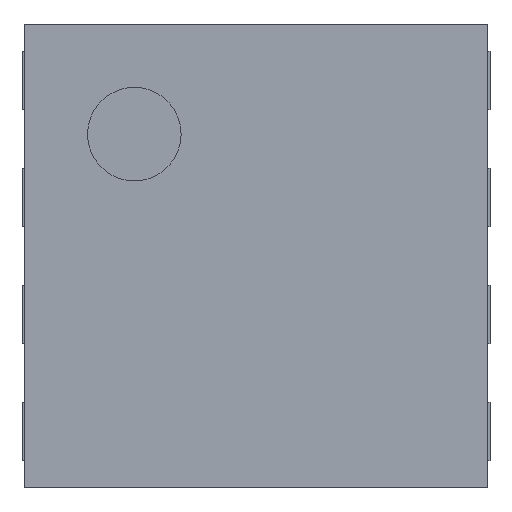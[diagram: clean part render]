
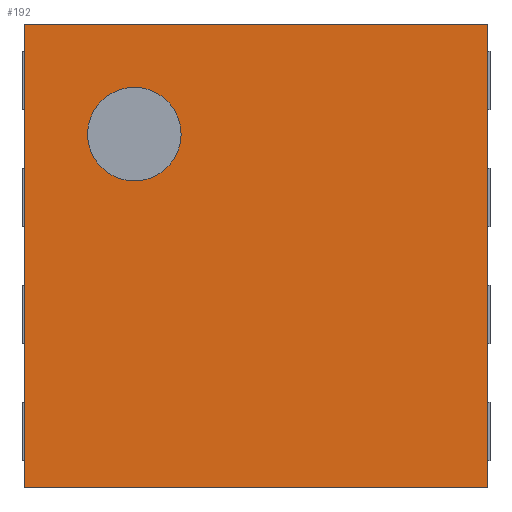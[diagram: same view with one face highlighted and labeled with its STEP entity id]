
A CAD part, top view. The second image highlights one B-rep face of the part: STEP entity #192.
In plain terms, the highlighted planar face has unit normal (0, 0, 1).
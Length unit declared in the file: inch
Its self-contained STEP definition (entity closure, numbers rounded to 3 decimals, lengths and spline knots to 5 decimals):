
#61 = CARTESIAN_POINT ( 'NONE',  ( -0.03898, 0.03898, 0.03622 ) ) ;
#65 = CARTESIAN_POINT ( 'NONE',  ( -0.02047, 0.02047, 0.03622 ) ) ;
#78 = EDGE_LOOP ( 'NONE', ( #98, #1694 ) ) ;
#93 = EDGE_CURVE ( 'NONE', #1552, #219, #760, .T. ) ;
#96 = AXIS2_PLACEMENT_3D ( 'NONE', #65, #859, #1019 ) ;
#98 = ORIENTED_EDGE ( 'NONE', *, *, #1045, .T. ) ;
#154 = DIRECTION ( 'NONE',  ( 1., 0., 0. ) ) ;
#192 = ADVANCED_FACE ( 'NONE', ( #1102, #1441 ), #1740, .T. ) ;
#197 = CARTESIAN_POINT ( 'NONE',  ( -0.03898, 0.03898, 0.03622 ) ) ;
#219 = VERTEX_POINT ( 'NONE', #1306 ) ;
#312 = EDGE_CURVE ( 'NONE', #739, #490, #1936, .T. ) ;
#330 = CARTESIAN_POINT ( 'NONE',  ( -0.03898, -0.03898, 0.03622 ) ) ;
#420 = CARTESIAN_POINT ( 'NONE',  ( -0.03898, 0.03898, 0.03622 ) ) ;
#479 = ORIENTED_EDGE ( 'NONE', *, *, #1560, .F. ) ;
#490 = VERTEX_POINT ( 'NONE', #1119 ) ;
#520 = VERTEX_POINT ( 'NONE', #330 ) ;
#606 = VECTOR ( 'NONE', #1658, 39.37008 ) ;
#621 = VECTOR ( 'NONE', #1766, 39.37008 ) ;
#643 = DIRECTION ( 'NONE',  ( 0., 0., 1. ) ) ;
#668 = AXIS2_PLACEMENT_3D ( 'NONE', #949, #643, #1264 ) ;
#671 = VECTOR ( 'NONE', #685, 39.37008 ) ;
#685 = DIRECTION ( 'NONE',  ( 0., -1., 0. ) ) ;
#732 = AXIS2_PLACEMENT_3D ( 'NONE', #1071, #1829, #898 ) ;
#739 = VERTEX_POINT ( 'NONE', #420 ) ;
#757 = CARTESIAN_POINT ( 'NONE',  ( -0.02047, 0.02835, 0.03622 ) ) ;
#760 = CIRCLE ( 'NONE', #732, 0.00787 ) ;
#788 = CARTESIAN_POINT ( 'NONE',  ( -0.03898, -0.03898, 0.03622 ) ) ;
#859 = DIRECTION ( 'NONE',  ( 0., 0., -1. ) ) ;
#898 = DIRECTION ( 'NONE',  ( 0., -1., 0. ) ) ;
#909 = LINE ( 'NONE', #1388, #606 ) ;
#937 = VECTOR ( 'NONE', #154, 39.37008 ) ;
#946 = ORIENTED_EDGE ( 'NONE', *, *, #1788, .T. ) ;
#949 = CARTESIAN_POINT ( 'NONE',  ( -0.03898, 0.03898, 0.03622 ) ) ;
#999 = LINE ( 'NONE', #197, #671 ) ;
#1019 = DIRECTION ( 'NONE',  ( 0., -1., 0. ) ) ;
#1045 = EDGE_CURVE ( 'NONE', #219, #1552, #1950, .T. ) ;
#1071 = CARTESIAN_POINT ( 'NONE',  ( -0.02047, 0.02047, 0.03622 ) ) ;
#1102 = FACE_BOUND ( 'NONE', #78, .T. ) ;
#1119 = CARTESIAN_POINT ( 'NONE',  ( 0.03898, 0.03898, 0.03622 ) ) ;
#1249 = LINE ( 'NONE', #788, #937 ) ;
#1264 = DIRECTION ( 'NONE',  ( 1., 0., 0. ) ) ;
#1306 = CARTESIAN_POINT ( 'NONE',  ( -0.02047, 0.0126, 0.03622 ) ) ;
#1341 = ORIENTED_EDGE ( 'NONE', *, *, #312, .F. ) ;
#1388 = CARTESIAN_POINT ( 'NONE',  ( 0.03898, 0.03898, 0.03622 ) ) ;
#1441 = FACE_OUTER_BOUND ( 'NONE', #1656, .T. ) ;
#1448 = EDGE_CURVE ( 'NONE', #739, #520, #999, .T. ) ;
#1552 = VERTEX_POINT ( 'NONE', #757 ) ;
#1560 = EDGE_CURVE ( 'NONE', #490, #1785, #909, .T. ) ;
#1634 = ORIENTED_EDGE ( 'NONE', *, *, #1448, .T. ) ;
#1656 = EDGE_LOOP ( 'NONE', ( #1341, #1634, #946, #479 ) ) ;
#1658 = DIRECTION ( 'NONE',  ( 0., -1., 0. ) ) ;
#1694 = ORIENTED_EDGE ( 'NONE', *, *, #93, .T. ) ;
#1740 = PLANE ( 'NONE',  #668 ) ;
#1766 = DIRECTION ( 'NONE',  ( 1., 0., 0. ) ) ;
#1785 = VERTEX_POINT ( 'NONE', #2042 ) ;
#1788 = EDGE_CURVE ( 'NONE', #520, #1785, #1249, .T. ) ;
#1829 = DIRECTION ( 'NONE',  ( 0., 0., -1. ) ) ;
#1936 = LINE ( 'NONE', #61, #621 ) ;
#1950 = CIRCLE ( 'NONE', #96, 0.00787 ) ;
#2042 = CARTESIAN_POINT ( 'NONE',  ( 0.03898, -0.03898, 0.03622 ) ) ;
